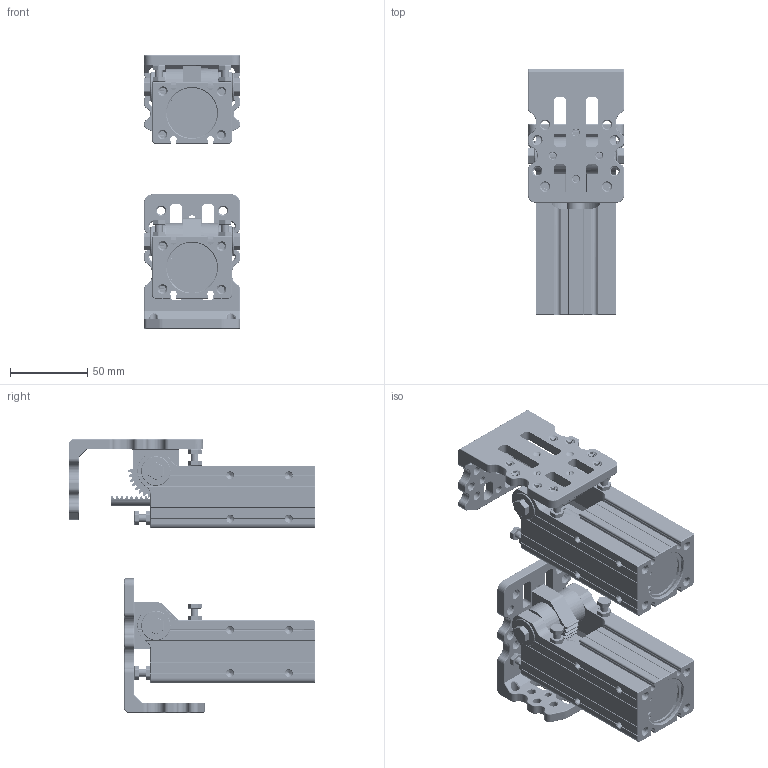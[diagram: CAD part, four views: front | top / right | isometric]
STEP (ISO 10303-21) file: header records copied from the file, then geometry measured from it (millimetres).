
FILE_DESCRIPTION(/* description */ (''),/* implementation_level */ '2;1');
FILE_NAME(/* name */ 'DHR5C-32M30ZG-LB.stp',/* time_stamp */ '2024-08-24T09:36:59+08:00',/* author */ (''),/* organization */ (''),/* preprocessor_version */ 'ST-DEVELOPER v15',/* originating_system */ 'SIEMENS PLM Software NX 10.0',/* authorisation */ '');
FILE_SCHEMA (('AP203_CONFIGURATION_CONTROLLED_3D_DESIGN_OF_MECHANICAL_PARTS_AND_ASSEMBLIES_MIM_LF { 1 0 10303 403 2 1 2}'));
Products named in the file (1): Admi3E58E46Ep4un
Bounding box: 62 x 159.3 x 176.8 mm (x, y, z)
Volume: 404007.9 mm3; surface area: 134269.6 mm2
Topology: 10 solids, 42 shells, 3872 faces, 10492 edges, 6688 vertices
Faces by surface type: plane 2664, cylinder 719, cone 244, torus 182, bspline 52, sphere 9, extrusion 2
Full cylindrical faces by diameter (mm): 2 x4, 2.5 x10, 2.583 x4, 4 x7, 4.2 x66, 4.5 x4, 5 x26, 5.2 x16, 8 x4, 8.5 x4, 10 x8, 12 x2, 14 x4, 19 x4, 24 x4, 32.5 x4, 34 x4
Entity records: 157166 total; most frequent: CARTESIAN_POINT 62680, ORIENTED_EDGE 19672, DIRECTION 18788, EDGE_CURVE 9836, VECTOR 7502, LINE 7500, VERTEX_POINT 6463, AXIS2_PLACEMENT_3D 5643
